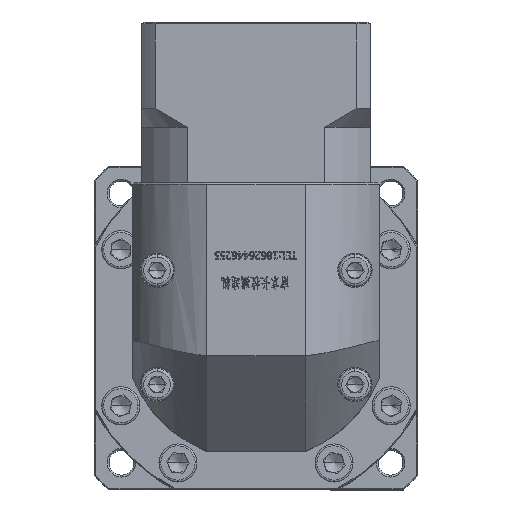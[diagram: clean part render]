
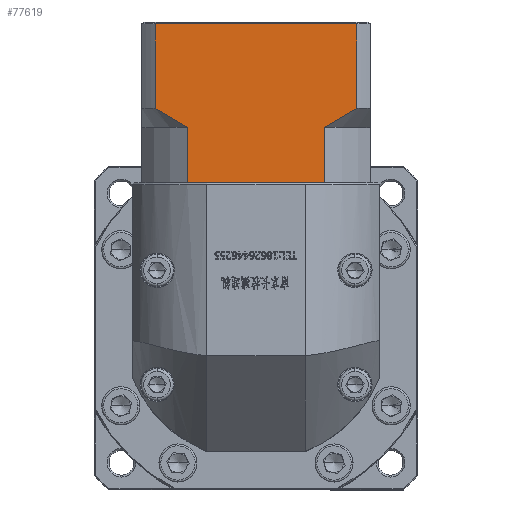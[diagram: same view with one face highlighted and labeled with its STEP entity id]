
A CAD part, top view. The second image highlights one B-rep face of the part: STEP entity #77619.
In plain terms, the highlighted planar face has unit normal (0, 0, 1).
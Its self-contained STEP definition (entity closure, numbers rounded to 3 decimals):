
#684 = EDGE_CURVE ( 'NONE', #139298, #96655, #30289, .T. ) ;
#2465 = DIRECTION ( 'NONE',  ( 0., 1., 0. ) ) ;
#2800 = DIRECTION ( 'NONE',  ( 0., 0., -1. ) ) ;
#5254 = EDGE_LOOP ( 'NONE', ( #119343, #77313, #26930, #72954, #32988, #154432, #43313, #160505, #130922, #86960 ) ) ;
#8585 = CARTESIAN_POINT ( 'NONE',  ( -11.299, 150.666, 71.211 ) ) ;
#12474 = VECTOR ( 'NONE', #35258, 1000. ) ;
#15266 = CARTESIAN_POINT ( 'NONE',  ( 38.873, 148.891, 71.211 ) ) ;
#20971 = CARTESIAN_POINT ( 'NONE',  ( -8.561, 148.893, 71.211 ) ) ;
#22108 = CARTESIAN_POINT ( 'NONE',  ( -5.753, 147.218, 71.211 ) ) ;
#24270 = B_SPLINE_CURVE_WITH_KNOTS ( 'NONE', 3,
 ( #8585, #101724, #20971, #22108, #115770, #35493 ),
 .UNSPECIFIED., .F., .F.,
 ( 4, 2, 4 ),
 ( 0.052, 0.057, 0.062 ),
 .UNSPECIFIED. ) ;
#24821 = EDGE_CURVE ( 'NONE', #84077, #96655, #39467, .T. ) ;
#25626 = EDGE_CURVE ( 'NONE', #113825, #36592, #141833, .T. ) ;
#26930 = ORIENTED_EDGE ( 'NONE', *, *, #128563, .F. ) ;
#27539 = CARTESIAN_POINT ( 'NONE',  ( 41.616, 150.666, 71.211 ) ) ;
#28479 = VECTOR ( 'NONE', #82913, 1000. ) ;
#28684 = CARTESIAN_POINT ( 'NONE',  ( 41.616, 150.666, 71.211 ) ) ;
#30289 = B_SPLINE_CURVE_WITH_KNOTS ( 'NONE', 3,
 ( #95458, #162172, #81956, #15266, #108933, #28684 ),
 .UNSPECIFIED., .F., .F.,
 ( 4, 2, 4 ),
 ( 0.1, 0.104, 0.109 ),
 .UNSPECIFIED. ) ;
#30987 = CARTESIAN_POINT ( 'NONE',  ( 33.186, 145.666, 71.211 ) ) ;
#32657 = LINE ( 'NONE', #163727, #28479 ) ;
#32985 = VECTOR ( 'NONE', #97728, 1000. ) ;
#32988 = ORIENTED_EDGE ( 'NONE', *, *, #35626, .F. ) ;
#34311 = CARTESIAN_POINT ( 'NONE',  ( -14.842, 131.166, 71.211 ) ) ;
#35258 = DIRECTION ( 'NONE',  ( -1., 0., 0. ) ) ;
#35493 = CARTESIAN_POINT ( 'NONE',  ( -2.87, 145.666, 71.211 ) ) ;
#35626 = EDGE_CURVE ( 'NONE', #113825, #122541, #51502, .T. ) ;
#36163 = CARTESIAN_POINT ( 'NONE',  ( -2.87, 131.166, 71.211 ) ) ;
#36592 = VERTEX_POINT ( 'NONE', #79301 ) ;
#37139 = LINE ( 'NONE', #30987, #32985 ) ;
#39393 = DIRECTION ( 'NONE',  ( 1., 0., 0. ) ) ;
#39467 = LINE ( 'NONE', #150600, #66639 ) ;
#40855 = AXIS2_PLACEMENT_3D ( 'NONE', #83018, #2800, #96485 ) ;
#43313 = ORIENTED_EDGE ( 'NONE', *, *, #65635, .T. ) ;
#48086 = LINE ( 'NONE', #116114, #12474 ) ;
#51502 = LINE ( 'NONE', #173270, #122839 ) ;
#54972 = CARTESIAN_POINT ( 'NONE',  ( 41.616, 172.866, 71.211 ) ) ;
#61169 = CARTESIAN_POINT ( 'NONE',  ( 32.195, 131.166, 71.211 ) ) ;
#61252 = DIRECTION ( 'NONE',  ( 1., 0., 0. ) ) ;
#63901 = CARTESIAN_POINT ( 'NONE',  ( 33.186, 131.166, 71.211 ) ) ;
#64138 = EDGE_CURVE ( 'NONE', #94983, #122541, #24270, .T. ) ;
#65122 = EDGE_CURVE ( 'NONE', #139298, #101665, #37139, .T. ) ;
#65635 = EDGE_CURVE ( 'NONE', #36592, #84879, #32657, .T. ) ;
#66639 = VECTOR ( 'NONE', #123677, 1000. ) ;
#72852 = LINE ( 'NONE', #82670, #144069 ) ;
#72954 = ORIENTED_EDGE ( 'NONE', *, *, #64138, .T. ) ;
#76393 = CARTESIAN_POINT ( 'NONE',  ( -11.299, 172.866, 71.211 ) ) ;
#77313 = ORIENTED_EDGE ( 'NONE', *, *, #152292, .T. ) ;
#77619 = ADVANCED_FACE ( 'NONE', ( #140632 ), #122284, .F. ) ;
#79301 = CARTESIAN_POINT ( 'NONE',  ( -1.879, 131.166, 71.211 ) ) ;
#81956 = CARTESIAN_POINT ( 'NONE',  ( 36.068, 147.217, 71.211 ) ) ;
#82670 = CARTESIAN_POINT ( 'NONE',  ( -11.299, 145.666, 71.211 ) ) ;
#82733 = LINE ( 'NONE', #133647, #149805 ) ;
#82913 = DIRECTION ( 'NONE',  ( 1., 0., 0. ) ) ;
#83018 = CARTESIAN_POINT ( 'NONE',  ( -14.842, 173.366, 71.211 ) ) ;
#84077 = VERTEX_POINT ( 'NONE', #54972 ) ;
#84879 = VERTEX_POINT ( 'NONE', #61169 ) ;
#86960 = ORIENTED_EDGE ( 'NONE', *, *, #684, .T. ) ;
#93072 = DIRECTION ( 'NONE',  ( 0., 1., 0. ) ) ;
#94983 = VERTEX_POINT ( 'NONE', #173186 ) ;
#95458 = CARTESIAN_POINT ( 'NONE',  ( 33.186, 145.666, 71.211 ) ) ;
#96485 = DIRECTION ( 'NONE',  ( 0., 1., 0. ) ) ;
#96655 = VERTEX_POINT ( 'NONE', #27539 ) ;
#97728 = DIRECTION ( 'NONE',  ( 0., -1., 0. ) ) ;
#101665 = VERTEX_POINT ( 'NONE', #63901 ) ;
#101724 = CARTESIAN_POINT ( 'NONE',  ( -9.939, 149.767, 71.211 ) ) ;
#106210 = VECTOR ( 'NONE', #61252, 1000. ) ;
#108933 = CARTESIAN_POINT ( 'NONE',  ( 40.253, 149.765, 71.211 ) ) ;
#113825 = VERTEX_POINT ( 'NONE', #36163 ) ;
#115770 = CARTESIAN_POINT ( 'NONE',  ( -4.322, 146.414, 71.211 ) ) ;
#116114 = CARTESIAN_POINT ( 'NONE',  ( -14.842, 172.866, 71.211 ) ) ;
#119343 = ORIENTED_EDGE ( 'NONE', *, *, #24821, .F. ) ;
#122284 = PLANE ( 'NONE',  #40855 ) ;
#122541 = VERTEX_POINT ( 'NONE', #141451 ) ;
#122839 = VECTOR ( 'NONE', #93072, 1000. ) ;
#123677 = DIRECTION ( 'NONE',  ( 0., -1., 0. ) ) ;
#128563 = EDGE_CURVE ( 'NONE', #94983, #143130, #72852, .T. ) ;
#130922 = ORIENTED_EDGE ( 'NONE', *, *, #65122, .F. ) ;
#130943 = CARTESIAN_POINT ( 'NONE',  ( 33.186, 145.666, 71.211 ) ) ;
#133647 = CARTESIAN_POINT ( 'NONE',  ( -14.842, 131.166, 71.211 ) ) ;
#139298 = VERTEX_POINT ( 'NONE', #130943 ) ;
#140632 = FACE_OUTER_BOUND ( 'NONE', #5254, .T. ) ;
#141451 = CARTESIAN_POINT ( 'NONE',  ( -2.87, 145.666, 71.211 ) ) ;
#141833 = LINE ( 'NONE', #34311, #106210 ) ;
#143130 = VERTEX_POINT ( 'NONE', #76393 ) ;
#144069 = VECTOR ( 'NONE', #2465, 1000. ) ;
#147526 = EDGE_CURVE ( 'NONE', #84879, #101665, #82733, .T. ) ;
#149805 = VECTOR ( 'NONE', #39393, 1000. ) ;
#150600 = CARTESIAN_POINT ( 'NONE',  ( 41.616, 145.666, 71.211 ) ) ;
#152292 = EDGE_CURVE ( 'NONE', #84077, #143130, #48086, .T. ) ;
#154432 = ORIENTED_EDGE ( 'NONE', *, *, #25626, .T. ) ;
#160505 = ORIENTED_EDGE ( 'NONE', *, *, #147526, .T. ) ;
#162172 = CARTESIAN_POINT ( 'NONE',  ( 34.642, 146.416, 71.211 ) ) ;
#163727 = CARTESIAN_POINT ( 'NONE',  ( -14.842, 131.166, 71.211 ) ) ;
#173186 = CARTESIAN_POINT ( 'NONE',  ( -11.299, 150.666, 71.211 ) ) ;
#173270 = CARTESIAN_POINT ( 'NONE',  ( -2.87, 145.666, 71.211 ) ) ;
